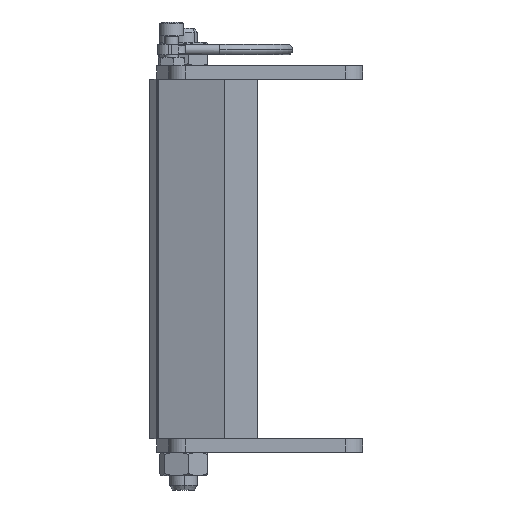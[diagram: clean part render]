
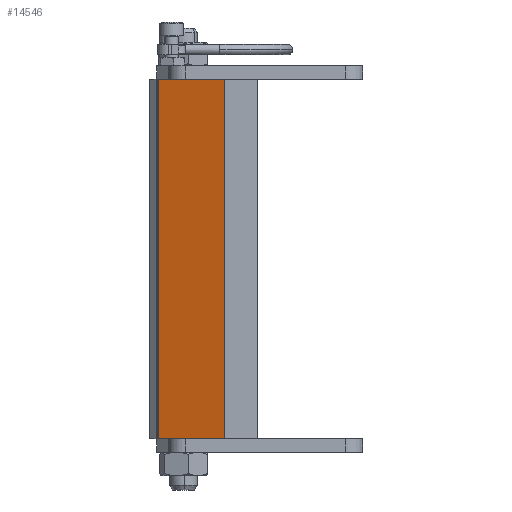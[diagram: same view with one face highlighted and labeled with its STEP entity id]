
A CAD part, left-side view. The second image highlights one B-rep face of the part: STEP entity #14546.
In plain terms, the highlighted planar face has unit normal (-0.391, -0.92, 0).
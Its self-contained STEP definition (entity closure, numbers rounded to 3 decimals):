
#285 = EDGE_CURVE ( 'NONE', #12226, #14772, #14617, .T. ) ;
#970 = DIRECTION ( 'NONE',  ( 0.391, 0.921, 0. ) ) ;
#1552 = LINE ( 'NONE', #18926, #3282 ) ;
#1810 = ORIENTED_EDGE ( 'NONE', *, *, #285, .F. ) ;
#2109 = EDGE_CURVE ( 'NONE', #11191, #6181, #6855, .T. ) ;
#3231 = CARTESIAN_POINT ( 'NONE',  ( 171.893, 2.945, -4. ) ) ;
#3282 = VECTOR ( 'NONE', #15763, 1000. ) ;
#3368 = CARTESIAN_POINT ( 'NONE',  ( 171.893, 2.945, -4. ) ) ;
#3381 = EDGE_CURVE ( 'NONE', #14772, #11191, #12479, .T. ) ;
#4776 = ORIENTED_EDGE ( 'NONE', *, *, #10851, .F. ) ;
#5179 = DIRECTION ( 'NONE',  ( 0.921, -0.391, 0. ) ) ;
#5328 = CARTESIAN_POINT ( 'NONE',  ( 217.703, -16.5, -4. ) ) ;
#5893 = DIRECTION ( 'NONE',  ( -0.921, 0.391, 0. ) ) ;
#6181 = VERTEX_POINT ( 'NONE', #17785 ) ;
#6225 = ORIENTED_EDGE ( 'NONE', *, *, #2109, .F. ) ;
#6855 = LINE ( 'NONE', #5328, #10802 ) ;
#6857 = CARTESIAN_POINT ( 'NONE',  ( 171.893, 2.945, -4. ) ) ;
#7088 = PLANE ( 'NONE',  #12156 ) ;
#8332 = EDGE_LOOP ( 'NONE', ( #6225, #13913, #1810, #4776 ) ) ;
#8786 = DIRECTION ( 'NONE',  ( 0., 0., -1. ) ) ;
#10802 = VECTOR ( 'NONE', #8786, 1000. ) ;
#10851 = EDGE_CURVE ( 'NONE', #6181, #12226, #1552, .T. ) ;
#11191 = VERTEX_POINT ( 'NONE', #11790 ) ;
#11790 = CARTESIAN_POINT ( 'NONE',  ( 217.703, -16.5, -4. ) ) ;
#12107 = FACE_OUTER_BOUND ( 'NONE', #8332, .T. ) ;
#12156 = AXIS2_PLACEMENT_3D ( 'NONE', #18407, #970, #5893 ) ;
#12226 = VERTEX_POINT ( 'NONE', #13539 ) ;
#12479 = LINE ( 'NONE', #6857, #20430 ) ;
#13539 = CARTESIAN_POINT ( 'NONE',  ( 171.893, 2.945, -109. ) ) ;
#13913 = ORIENTED_EDGE ( 'NONE', *, *, #3381, .F. ) ;
#14424 = DIRECTION ( 'NONE',  ( 0., 0., 1. ) ) ;
#14546 = ADVANCED_FACE ( 'NONE', ( #12107 ), #7088, .F. ) ;
#14617 = LINE ( 'NONE', #3368, #19846 ) ;
#14772 = VERTEX_POINT ( 'NONE', #3231 ) ;
#15763 = DIRECTION ( 'NONE',  ( -0.921, 0.391, 0. ) ) ;
#17785 = CARTESIAN_POINT ( 'NONE',  ( 217.703, -16.5, -109. ) ) ;
#18407 = CARTESIAN_POINT ( 'NONE',  ( 171.893, 2.945, -4. ) ) ;
#18926 = CARTESIAN_POINT ( 'NONE',  ( 171.893, 2.945, -109. ) ) ;
#19846 = VECTOR ( 'NONE', #14424, 1000. ) ;
#20430 = VECTOR ( 'NONE', #5179, 1000. ) ;
